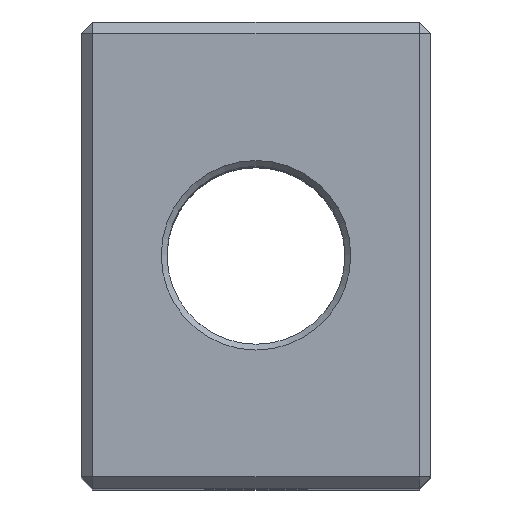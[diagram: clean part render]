
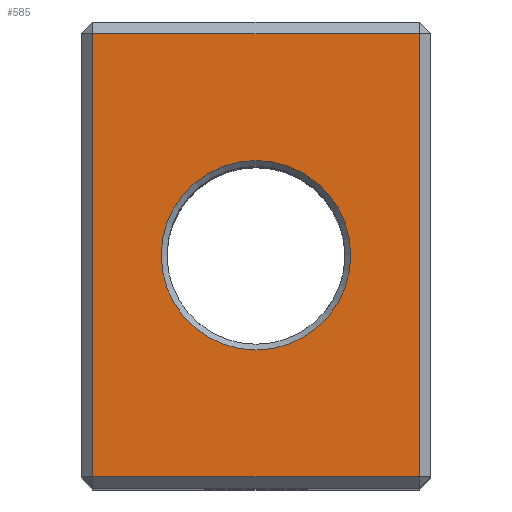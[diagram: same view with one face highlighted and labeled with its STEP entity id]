
A CAD part, top view. The second image highlights one B-rep face of the part: STEP entity #585.
In plain terms, the highlighted planar face has unit normal (0, 0, 1).
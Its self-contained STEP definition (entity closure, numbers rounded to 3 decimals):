
#32=FACE_BOUND('',#117,.T.);
#41=PLANE('',#655);
#73=FACE_OUTER_BOUND('',#116,.T.);
#116=EDGE_LOOP('',(#454,#455,#456,#457));
#117=EDGE_LOOP('',(#458));
#164=LINE('',#1078,#223);
#165=LINE('',#1080,#224);
#166=LINE('',#1082,#225);
#167=LINE('',#1083,#226);
#223=VECTOR('',#740,10.);
#224=VECTOR('',#741,10.);
#225=VECTOR('',#742,10.);
#226=VECTOR('',#743,10.);
#278=CIRCLE('',#650,8.125);
#301=VERTEX_POINT('',#978);
#307=VERTEX_POINT('',#1076);
#308=VERTEX_POINT('',#1077);
#309=VERTEX_POINT('',#1079);
#310=VERTEX_POINT('',#1081);
#350=EDGE_CURVE('',#301,#301,#278,.T.);
#358=EDGE_CURVE('',#307,#308,#164,.T.);
#359=EDGE_CURVE('',#309,#307,#165,.T.);
#360=EDGE_CURVE('',#310,#309,#166,.T.);
#361=EDGE_CURVE('',#308,#310,#167,.T.);
#454=ORIENTED_EDGE('',*,*,#358,.F.);
#455=ORIENTED_EDGE('',*,*,#359,.F.);
#456=ORIENTED_EDGE('',*,*,#360,.F.);
#457=ORIENTED_EDGE('',*,*,#361,.F.);
#458=ORIENTED_EDGE('',*,*,#350,.F.);
#585=ADVANCED_FACE('',(#73,#32),#41,.T.);
#650=AXIS2_PLACEMENT_3D('',#979,#726,#727);
#655=AXIS2_PLACEMENT_3D('',#1075,#738,#739);
#726=DIRECTION('center_axis',(0.,0.,1.));
#727=DIRECTION('ref_axis',(-1.,0.,0.));
#738=DIRECTION('center_axis',(0.,0.,1.));
#739=DIRECTION('ref_axis',(1.,0.,0.));
#740=DIRECTION('',(1.,0.,0.));
#741=DIRECTION('',(0.,1.,0.));
#742=DIRECTION('',(-1.,0.,0.));
#743=DIRECTION('',(0.,-1.,0.));
#978=CARTESIAN_POINT('',(8.125,0.,36.));
#979=CARTESIAN_POINT('Origin',(0.,0.,36.));
#1075=CARTESIAN_POINT('Origin',(0.,0.,36.));
#1076=CARTESIAN_POINT('',(-14.,19.,36.));
#1077=CARTESIAN_POINT('',(14.,19.,36.));
#1078=CARTESIAN_POINT('',(7.5,19.,36.));
#1079=CARTESIAN_POINT('',(-14.,-19.,36.));
#1080=CARTESIAN_POINT('',(-14.,10.,36.));
#1081=CARTESIAN_POINT('',(14.,-19.,36.));
#1082=CARTESIAN_POINT('',(-7.5,-19.,36.));
#1083=CARTESIAN_POINT('',(14.,-10.,36.));
